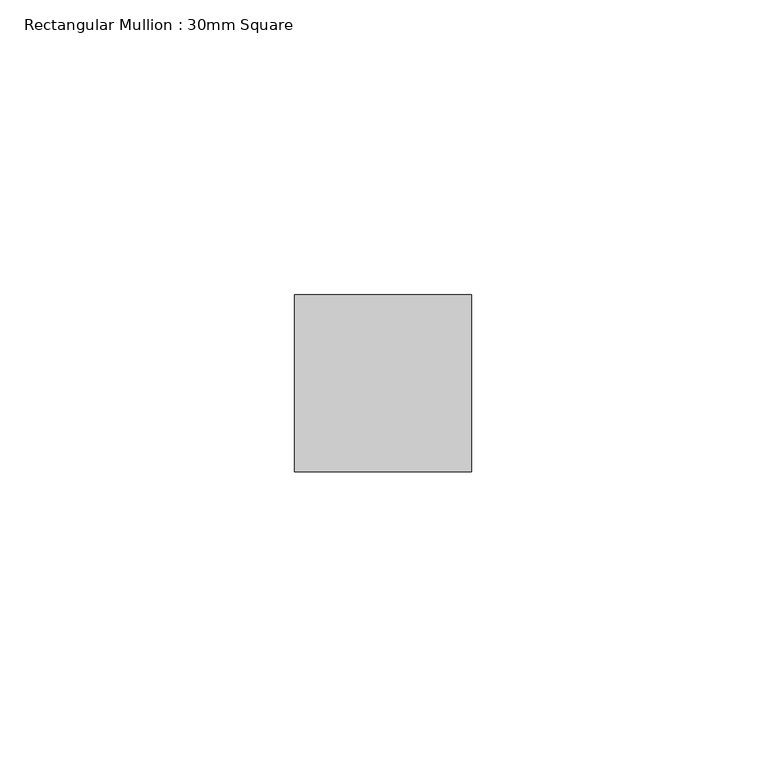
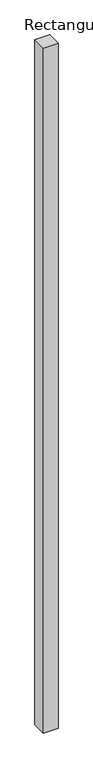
"""IFC4 building model written with IfcOpenShell, lengths in millimetres: member geometry, Rectangular Mullion : 30mm Square."""

from ifc_helpers import new_model, si_unit, frame, origin, place, context, project, spatial, polyline, outline, extrude, source, transform, mapped, element, save


def rectangular_mullion_30mm_square_eb988697(model_context):
    return source(origin(), model_context, "Body", "SweptSolid", [
        extrude(outline(polyline([(15.0, 15.0), (15.0, -15.0), (-15.0, -15.0), (-15.0, 15.0), (15.0, 15.0)])), frame((0.0, 0.0, -1479.0), z_axis=(0.0, 0.0, 1.0), x_axis=(1.0, 0.0, 0.0)), (0.0, 0.0, 1.0), 1479.0),
    ])


if __name__ == "__main__":
    model = new_model("IFC4")
    model_context = context("Model", 3, world=origin())
    ifc_project = project(units=[si_unit("LENGTHUNIT", "METRE", prefix="MILLI")], contexts=[model_context])
    site = spatial("IfcSite", under=ifc_project)
    building = spatial("IfcBuilding", under=site)
    placement = place(None, origin())
    rectangular_mullion_30mm_square_shape = rectangular_mullion_30mm_square_eb988697(model_context)
    element("IfcMember", 1, ObjectType="Rectangular Mullion : 30mm Square", at=placement, inside=building, context=model_context, shape_type="MappedRepresentation", body=[
        mapped(rectangular_mullion_30mm_square_shape, transform((0.0, 0.0, 0.0), x_axis=(1.0, 0.0, 0.0), y_axis=(0.0, 1.0, 0.0), z_axis=(0.0, 0.0, 1.0))),
    ])
    save(model, "model.ifc")
